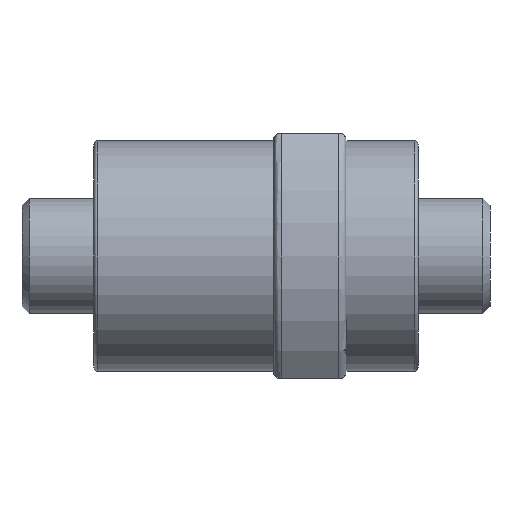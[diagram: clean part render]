
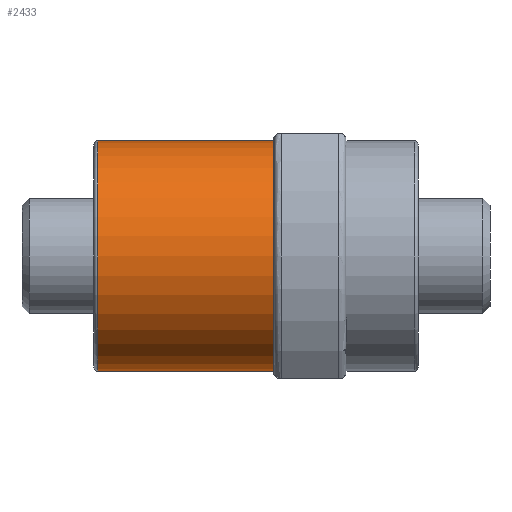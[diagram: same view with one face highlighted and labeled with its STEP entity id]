
A CAD part, front view. The second image highlights one B-rep face of the part: STEP entity #2433.
In plain terms, the highlighted cylindrical face has radius 16 mm (diameter 32 mm), a partial arc.
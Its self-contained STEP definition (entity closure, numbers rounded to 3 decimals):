
#3 = CIRCLE ( 'NONE', #69, 16. ) ;
#67 = LINE ( 'NONE', #461, #356 ) ;
#69 = AXIS2_PLACEMENT_3D ( 'NONE', #560, #2148, #2821 ) ;
#303 = DIRECTION ( 'NONE',  ( 1., 0., 0. ) ) ;
#325 = LINE ( 'NONE', #1734, #2320 ) ;
#356 = VECTOR ( 'NONE', #303, 1000. ) ;
#401 = DIRECTION ( 'NONE',  ( 1., 0., 0. ) ) ;
#438 = CARTESIAN_POINT ( 'NONE',  ( 0.1, 0., -16. ) ) ;
#461 = CARTESIAN_POINT ( 'NONE',  ( -24.9, 0., -16. ) ) ;
#512 = CARTESIAN_POINT ( 'NONE',  ( 0.1, 0., 16. ) ) ;
#560 = CARTESIAN_POINT ( 'NONE',  ( 0.1, 0., 0. ) ) ;
#592 = CARTESIAN_POINT ( 'NONE',  ( -24.9, 0., 0. ) ) ;
#788 = VERTEX_POINT ( 'NONE', #2033 ) ;
#871 = EDGE_CURVE ( 'NONE', #1029, #788, #2692, .T. ) ;
#891 = VERTEX_POINT ( 'NONE', #512 ) ;
#1029 = VERTEX_POINT ( 'NONE', #2279 ) ;
#1293 = VERTEX_POINT ( 'NONE', #438 ) ;
#1485 = AXIS2_PLACEMENT_3D ( 'NONE', #592, #1517, #1970 ) ;
#1517 = DIRECTION ( 'NONE',  ( 1., 0., 0. ) ) ;
#1734 = CARTESIAN_POINT ( 'NONE',  ( -24.9, 0., 16. ) ) ;
#1742 = ORIENTED_EDGE ( 'NONE', *, *, #871, .T. ) ;
#1953 = ORIENTED_EDGE ( 'NONE', *, *, #2475, .F. ) ;
#1970 = DIRECTION ( 'NONE',  ( 0., 0., -1. ) ) ;
#2033 = CARTESIAN_POINT ( 'NONE',  ( -24.4, 0., -16. ) ) ;
#2148 = DIRECTION ( 'NONE',  ( -1., 0., 0. ) ) ;
#2176 = ORIENTED_EDGE ( 'NONE', *, *, #2361, .T. ) ;
#2251 = AXIS2_PLACEMENT_3D ( 'NONE', #2523, #2291, #2310 ) ;
#2279 = CARTESIAN_POINT ( 'NONE',  ( -24.4, 0., 16. ) ) ;
#2281 = EDGE_CURVE ( 'NONE', #788, #1293, #67, .T. ) ;
#2291 = DIRECTION ( 'NONE',  ( 1., 0., 0. ) ) ;
#2310 = DIRECTION ( 'NONE',  ( 0., 0., 1. ) ) ;
#2320 = VECTOR ( 'NONE', #401, 1000. ) ;
#2361 = EDGE_CURVE ( 'NONE', #1293, #891, #3, .T. ) ;
#2367 = ORIENTED_EDGE ( 'NONE', *, *, #2281, .T. ) ;
#2433 = ADVANCED_FACE ( 'NONE', ( #2531 ), #2774, .T. ) ;
#2475 = EDGE_CURVE ( 'NONE', #1029, #891, #325, .T. ) ;
#2523 = CARTESIAN_POINT ( 'NONE',  ( -24.4, 0., 0. ) ) ;
#2531 = FACE_OUTER_BOUND ( 'NONE', #2840, .T. ) ;
#2692 = CIRCLE ( 'NONE', #2251, 16. ) ;
#2774 = CYLINDRICAL_SURFACE ( 'NONE', #1485, 16. ) ;
#2821 = DIRECTION ( 'NONE',  ( 0., 0., -1. ) ) ;
#2840 = EDGE_LOOP ( 'NONE', ( #1953, #1742, #2367, #2176 ) ) ;
